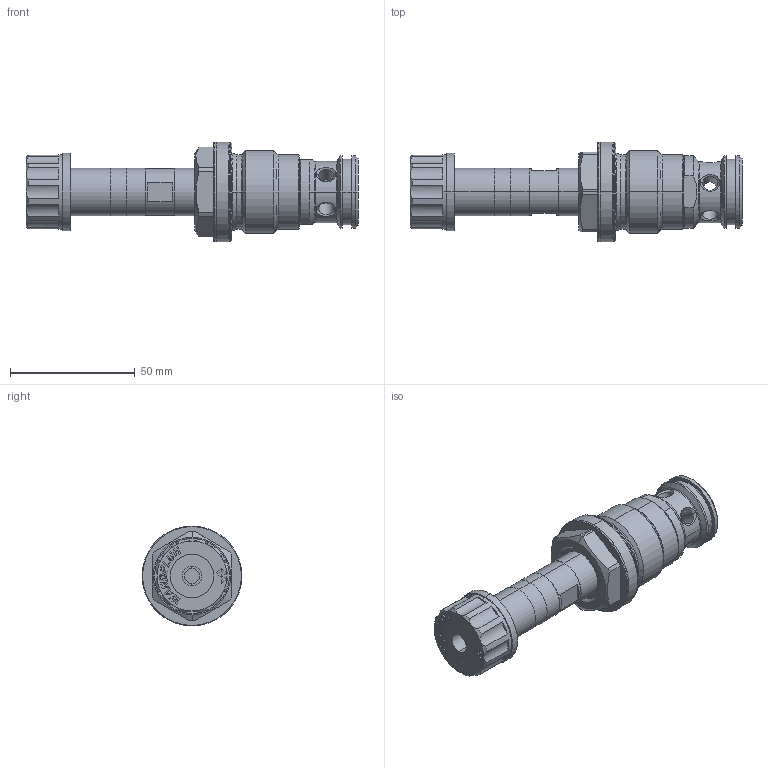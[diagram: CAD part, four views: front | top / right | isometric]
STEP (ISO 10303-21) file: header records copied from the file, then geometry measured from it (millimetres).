
FILE_DESCRIPTION (( 'STEP AP214' ), '1' );
FILE_NAME ('QSPPM33_HB.STEP', '2014-01-29T12:09:30', ( '' ), ( '' ), 'SwSTEP 2.0', 'SolidWorks 2012', '' );
FILE_SCHEMA (( 'AUTOMOTIVE_DESIGN' ));
Length unit declared in the file: millimetre
Products named in the file (1): QSPPM33_HB
Bounding box: 133.05 x 40 x 40 mm (x, y, z)
Volume: 70283.1 mm3; surface area: 29439.8 mm2
Topology: 7 solids, 7 shells, 756 faces, 1868 edges, 1162 vertices
Faces by surface type: plane 480, cylinder 122, cone 87, torus 51, bspline 16
Entity records: 31912 total; most frequent: CARTESIAN_POINT 5438, DIRECTION 3777, ORIENTED_EDGE 3736, EDGE_CURVE 1868, AXIS2_PLACEMENT_3D 1265, LINE 1247, VECTOR 1247, VERTEX_POINT 1162
